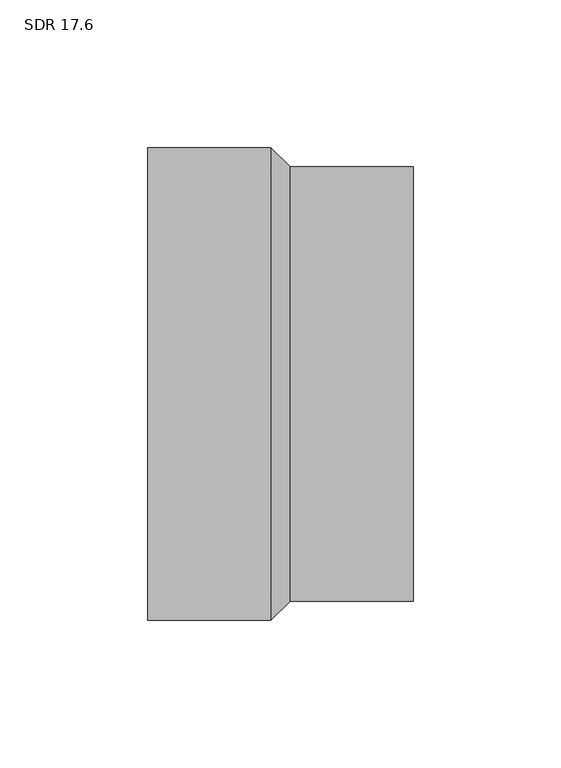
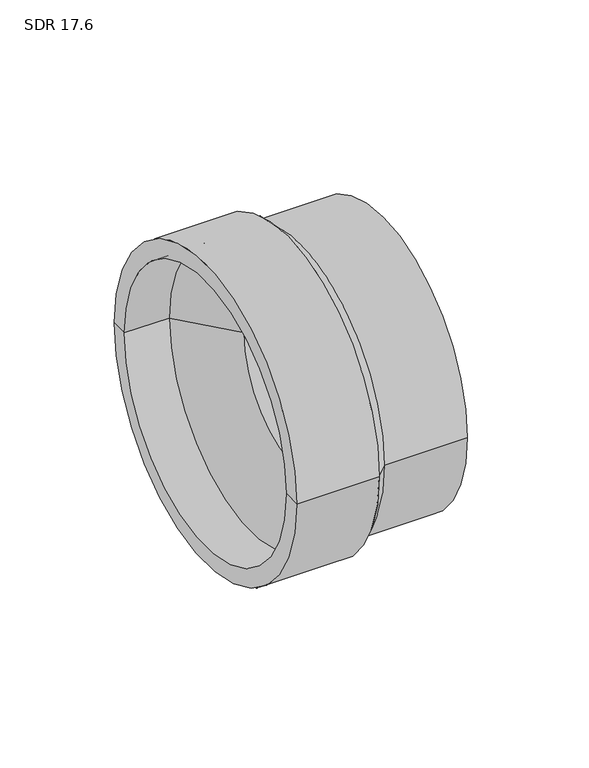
"""IFC4 building model written with IfcOpenShell, lengths in millimetres: pipe fitting geometry, Aquatherm - Reducing Coupling Butt Weld to Socket : SDR 17.6."""

from ifc_helpers import new_model, si_unit, frame, origin, place, context, project, spatial, polyline, circle_curve, source, transform, mapped, element, save
from ifc_brep_helpers import plane_surface, cylinder_surface, revolved_surface, advanced_brep


def sdr_17_6_d5bce1a3(model_context):
    return source(origin(), model_context, "Body", "AdvancedBrep", [
        advanced_brep(
        [(3.2385, -73.533, 0.0), (3.2385, 73.533, 0.0), (44.958, 73.533, 0.0), (44.958, -73.533, 0.0), (44.958, 54.991, 0.0), (44.958, -54.991, 0.0), (-22.225, -70.993, 0.0), (-22.225, 70.993, 0.0), (-44.958, 70.993, 0.0), (-44.958, -70.993, 0.0), (-44.958, 80.01, 0.0), (-44.958, -80.01, 0.0), (8.128, 54.991, 0.0), (8.128, -54.991, 0.0), (8.128, 44.958, 0.0), (8.128, -44.958, 0.0), (0.508, 44.958, 0.0), (0.508, -44.958, 0.0), (-3.2385, 80.01, 0.0), (-3.2385, -80.01, 0.0)],
        [
            (0, 1, circle_curve(frame((3.2385, 0.0, 0.0), z_axis=(1.0, 0.0, 0.0), x_axis=(0.0, 1.0, 0.0)), 73.533)),
            (1, 2),
            (2, 3, circle_curve(frame((44.958, 0.0, 0.0), z_axis=(-1.0, 0.0, 0.0), x_axis=(0.0, 1.0, 0.0)), 73.533)),
            (3, 0),
            (1, 0, circle_curve(frame((3.2385, 0.0, 0.0), z_axis=(1.0, 0.0, 0.0), x_axis=(0.0, 1.0, 0.0)), 73.533)),
            (3, 2, circle_curve(frame((44.958, 0.0, 0.0), z_axis=(-1.0, 0.0, 0.0), x_axis=(0.0, 1.0, 0.0)), 73.533)),
            (2, 4),
            (4, 5, circle_curve(frame((44.958, 0.0, 0.0), z_axis=(-1.0, 0.0, 0.0), x_axis=(0.0, 1.0, 0.0)), 54.991)),
            (5, 3),
            (5, 4, circle_curve(frame((44.958, 0.0, 0.0), z_axis=(-1.0, 0.0, 0.0), x_axis=(0.0, 1.0, 0.0)), 54.991)),
            (6, 7, circle_curve(frame((-22.225, 0.0, 0.0), z_axis=(1.0, 0.0, 0.0), x_axis=(0.0, 1.0, 0.0)), 70.993)),
            (7, 8),
            (8, 9, circle_curve(frame((-44.958, 0.0, 0.0), z_axis=(-1.0, 0.0, 0.0), x_axis=(0.0, 1.0, 0.0)), 70.993)),
            (9, 6),
            (7, 6, circle_curve(frame((-22.225, 0.0, 0.0), z_axis=(1.0, 0.0, 0.0), x_axis=(0.0, 1.0, 0.0)), 70.993)),
            (9, 8, circle_curve(frame((-44.958, 0.0, 0.0), z_axis=(-1.0, 0.0, 0.0), x_axis=(0.0, 1.0, 0.0)), 70.993)),
            (8, 10),
            (10, 11, circle_curve(frame((-44.958, 0.0, 0.0), z_axis=(-1.0, 0.0, 0.0), x_axis=(0.0, 1.0, 0.0)), 80.01)),
            (11, 9),
            (11, 10, circle_curve(frame((-44.958, 0.0, 0.0), z_axis=(-1.0, 0.0, 0.0), x_axis=(0.0, 1.0, 0.0)), 80.01)),
            (4, 12),
            (12, 13, circle_curve(frame((8.128, 0.0, 0.0), z_axis=(-1.0, 0.0, 0.0), x_axis=(0.0, 1.0, 0.0)), 54.991)),
            (13, 5),
            (13, 12, circle_curve(frame((8.128, 0.0, 0.0), z_axis=(-1.0, 0.0, 0.0), x_axis=(0.0, 1.0, 0.0)), 54.991)),
            (12, 14),
            (14, 15, circle_curve(frame((8.128, 0.0, 0.0), z_axis=(-1.0, 0.0, 0.0), x_axis=(0.0, 1.0, 0.0)), 44.958)),
            (15, 13),
            (15, 14, circle_curve(frame((8.128, 0.0, 0.0), z_axis=(-1.0, 0.0, 0.0), x_axis=(0.0, 1.0, 0.0)), 44.958)),
            (14, 16),
            (16, 17, circle_curve(frame((0.508, 0.0, 0.0), z_axis=(-1.0, 0.0, 0.0), x_axis=(0.0, 1.0, 0.0)), 44.958)),
            (17, 15),
            (17, 16, circle_curve(frame((0.508, 0.0, 0.0), z_axis=(-1.0, 0.0, 0.0), x_axis=(0.0, 1.0, 0.0)), 44.958)),
            (10, 18),
            (18, 19, circle_curve(frame((-3.2385, 0.0, 0.0), z_axis=(-1.0, 0.0, 0.0), x_axis=(0.0, 1.0, 0.0)), 80.01)),
            (19, 11),
            (19, 18, circle_curve(frame((-3.2385, 0.0, 0.0), z_axis=(-1.0, 0.0, 0.0), x_axis=(0.0, 1.0, 0.0)), 80.01)),
            (16, 7),
            (6, 17),
            (18, 1),
            (0, 19),
        ],
        [
            cylinder_surface(frame((-77.0252293, 0.0, 0.0), z_axis=(-1.0, 0.0, 0.0), x_axis=(0.0, 1.0, 0.0)), 73.533),
            plane_surface(frame((44.958, 0.0, 0.0), z_axis=(1.0, 0.0, 0.0), x_axis=(0.0, 1.0, 0.0))),
            revolved_surface(polyline([(-44.958, 70.993, 0.0), (-22.225, 70.993, 0.0)]), (-77.0252293, 0.0, 0.0), (-1.0, 0.0, 0.0)),
            plane_surface(frame((-44.958, 0.0, 0.0), z_axis=(-1.0, 0.0, 0.0), x_axis=(0.0, 1.0, 0.0))),
            revolved_surface(polyline([(8.128, 54.991, 0.0), (44.958, 54.991, 0.0)]), (-77.0252293, 0.0, 0.0), (-1.0, 0.0, 0.0)),
            plane_surface(frame((8.128, 0.0, 0.0), z_axis=(1.0, 0.0, 0.0), x_axis=(0.0, 1.0, 0.0))),
            revolved_surface(polyline([(0.5079999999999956, 44.958, 0.0), (8.128, 44.958, 0.0)]), (-77.0252293, 0.0, 0.0), (-1.0, 0.0, 0.0)),
            cylinder_surface(frame((-77.0252293, 0.0, 0.0), z_axis=(-1.0, 0.0, 0.0), x_axis=(0.0, 1.0, 0.0)), 80.01),
            revolved_surface(polyline([(-22.225, 70.993, 0.0), (0.508, 44.958, 0.0)]), (-77.0252293, 0.0, 0.0), (-1.0, 0.0, 0.0)),
            revolved_surface(polyline([(3.2385, 73.533, 0.0), (-3.2385, 80.01, 0.0)]), (-77.0252293, 0.0, 0.0), (-1.0, 0.0, 0.0)),
        ],
        [
            (0, [[1, 2, 3, 4]]),
            (0, [[5, -4, 6, -2]]),
            (1, [[-3, 7, 8, 9]]),
            (1, [[-6, -9, 10, -7]]),
            (2, [[11, 12, 13, 14]]),
            (2, [[15, -14, 16, -12]]),
            (3, [[-13, 17, 18, 19]]),
            (3, [[-16, -19, 20, -17]]),
            (4, [[-8, 21, 22, 23]]),
            (4, [[-10, -23, 24, -21]]),
            (5, [[-22, 25, 26, 27]]),
            (5, [[-24, -27, 28, -25]]),
            (6, [[-26, 29, 30, 31]]),
            (6, [[-28, -31, 32, -29]]),
            (7, [[-18, 33, 34, 35]]),
            (7, [[-20, -35, 36, -33]]),
            (8, [[-30, 37, -11, 38]]),
            (8, [[-32, -38, -15, -37]]),
            (9, [[-34, 39, -1, 40]]),
            (9, [[-36, -40, -5, -39]]),
        ],
    ),
    ])


if __name__ == "__main__":
    model = new_model("IFC4")
    model_context = context("Model", 3, world=origin())
    ifc_project = project(units=[si_unit("LENGTHUNIT", "METRE", prefix="MILLI")], contexts=[model_context])
    site = spatial("IfcSite", under=ifc_project)
    building = spatial("IfcBuilding", under=site)
    placement = place(None, origin())
    sdr_17_6_shape = sdr_17_6_d5bce1a3(model_context)
    element("IfcPipeFitting", 1, ObjectType="Aquatherm - Reducing Coupling Butt Weld to Socket : SDR 17.6", at=placement, inside=building, context=model_context, shape_type="MappedRepresentation", body=[
        mapped(sdr_17_6_shape, transform((0.0, 0.0, 0.0), x_axis=(1.0, 0.0, 0.0), y_axis=(0.0, 1.0, 0.0), z_axis=(0.0, 0.0, 1.0))),
    ])
    save(model, "model.ifc")
